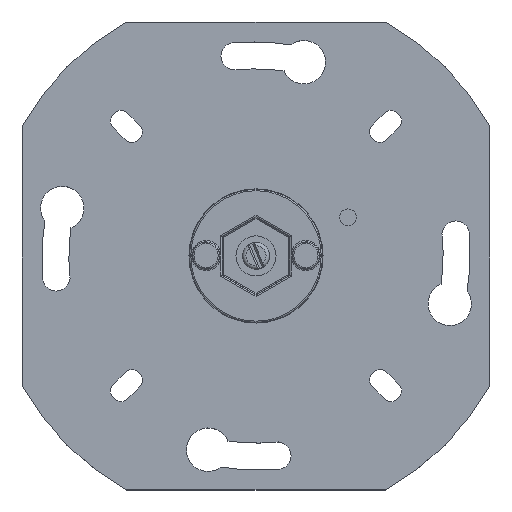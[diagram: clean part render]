
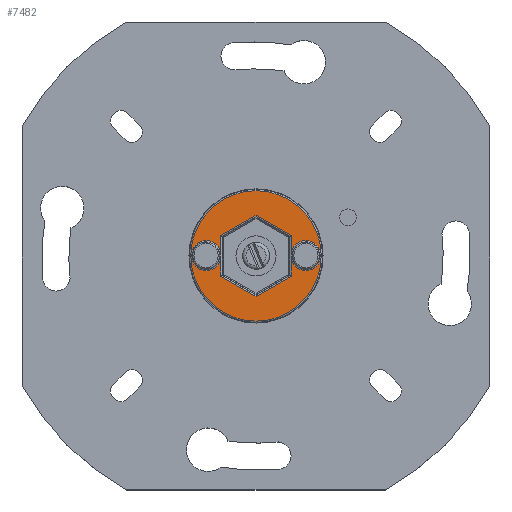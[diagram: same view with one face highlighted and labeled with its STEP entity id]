
A CAD part, top view. The second image highlights one B-rep face of the part: STEP entity #7482.
In plain terms, the highlighted planar face has unit normal (0, 0, 1).
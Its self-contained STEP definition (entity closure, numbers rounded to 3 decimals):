
#586=LINE('',#11053,#1108);
#587=LINE('',#11055,#1109);
#589=LINE('',#11069,#1111);
#590=LINE('',#11071,#1112);
#591=LINE('',#11073,#1113);
#592=LINE('',#11077,#1114);
#593=LINE('',#11079,#1115);
#594=LINE('',#11081,#1116);
#1108=VECTOR('',#9370,1000.);
#1109=VECTOR('',#9371,1000.);
#1111=VECTOR('',#9389,1000.);
#1112=VECTOR('',#9390,1000.);
#1113=VECTOR('',#9391,1000.);
#1114=VECTOR('',#9394,1000.);
#1115=VECTOR('',#9395,1000.);
#1116=VECTOR('',#9396,1000.);
#2598=ORIENTED_EDGE('',*,*,#3419,.T.);
#2599=ORIENTED_EDGE('',*,*,#3424,.T.);
#2600=ORIENTED_EDGE('',*,*,#3418,.T.);
#2601=ORIENTED_EDGE('',*,*,#3426,.T.);
#2602=ORIENTED_EDGE('',*,*,#3427,.T.);
#2603=ORIENTED_EDGE('',*,*,#3428,.T.);
#2604=ORIENTED_EDGE('',*,*,#3429,.T.);
#2605=ORIENTED_EDGE('',*,*,#3430,.T.);
#2606=ORIENTED_EDGE('',*,*,#3431,.T.);
#2607=ORIENTED_EDGE('',*,*,#3432,.T.);
#2608=ORIENTED_EDGE('',*,*,#3433,.F.);
#3418=EDGE_CURVE('',#3945,#3949,#586,.T.);
#3419=EDGE_CURVE('',#3950,#3948,#587,.T.);
#3424=EDGE_CURVE('',#3948,#3945,#4154,.T.);
#3426=EDGE_CURVE('',#3949,#3954,#589,.T.);
#3427=EDGE_CURVE('',#3954,#3955,#590,.T.);
#3428=EDGE_CURVE('',#3955,#3956,#591,.T.);
#3429=EDGE_CURVE('',#3956,#3957,#4156,.T.);
#3430=EDGE_CURVE('',#3957,#3958,#592,.T.);
#3431=EDGE_CURVE('',#3958,#3959,#593,.T.);
#3432=EDGE_CURVE('',#3959,#3950,#594,.T.);
#3433=EDGE_CURVE('',#3960,#3960,#4157,.T.);
#3945=VERTEX_POINT('',#11037);
#3948=VERTEX_POINT('',#11047);
#3949=VERTEX_POINT('',#11054);
#3950=VERTEX_POINT('',#11056);
#3954=VERTEX_POINT('',#11070);
#3955=VERTEX_POINT('',#11072);
#3956=VERTEX_POINT('',#11074);
#3957=VERTEX_POINT('',#11076);
#3958=VERTEX_POINT('',#11078);
#3959=VERTEX_POINT('',#11080);
#3960=VERTEX_POINT('',#11083);
#4154=CIRCLE('',#7965,2.246);
#4156=CIRCLE('',#7969,2.246);
#4157=CIRCLE('',#7970,9.761);
#4490=EDGE_LOOP('',(#2598,#2599,#2600,#2601,#2602,#2603,#2604,#2605,#2606,
#2607));
#4491=EDGE_LOOP('',(#2608));
#4862=FACE_BOUND('',#4490,.T.);
#4863=FACE_BOUND('',#4491,.T.);
#5084=PLANE('',#7968);
#7482=ADVANCED_FACE('',(#4862,#4863),#5084,.F.);
#7965=AXIS2_PLACEMENT_3D('',#11064,#9381,#9382);
#7968=AXIS2_PLACEMENT_3D('',#11068,#9387,#9388);
#7969=AXIS2_PLACEMENT_3D('',#11075,#9392,#9393);
#7970=AXIS2_PLACEMENT_3D('',#11082,#9397,#9398);
#9370=DIRECTION('',(0.,1.,0.));
#9371=DIRECTION('',(0.,1.,0.));
#9381=DIRECTION('',(0.,0.,-1.));
#9382=DIRECTION('',(-1.,0.,0.));
#9387=DIRECTION('',(0.,0.,-1.));
#9388=DIRECTION('',(-1.,0.,0.));
#9389=DIRECTION('',(0.866,0.5,0.));
#9390=DIRECTION('',(0.866,-0.5,0.));
#9391=DIRECTION('',(0.,-1.,0.));
#9392=DIRECTION('',(0.,0.,-1.));
#9393=DIRECTION('',(-1.,0.,0.));
#9394=DIRECTION('',(0.,-1.,0.));
#9395=DIRECTION('',(-0.866,-0.5,0.));
#9396=DIRECTION('',(-0.866,0.5,0.));
#9397=DIRECTION('',(0.,0.,-1.));
#9398=DIRECTION('',(-1.,0.,0.));
#11037=CARTESIAN_POINT('',(13.523,35.335,3.5));
#11047=CARTESIAN_POINT('',(13.523,34.777,3.5));
#11053=CARTESIAN_POINT('',(13.523,35.,3.5));
#11054=CARTESIAN_POINT('',(13.523,38.03,3.5));
#11055=CARTESIAN_POINT('',(13.523,35.,3.5));
#11056=CARTESIAN_POINT('',(13.523,31.97,3.5));
#11064=CARTESIAN_POINT('',(11.294,35.056,3.5));
#11068=CARTESIAN_POINT('',(18.771,35.,3.5));
#11069=CARTESIAN_POINT('',(16.147,39.546,3.5));
#11070=CARTESIAN_POINT('',(18.771,41.061,3.5));
#11071=CARTESIAN_POINT('',(21.396,39.546,3.5));
#11072=CARTESIAN_POINT('',(24.02,38.03,3.5));
#11073=CARTESIAN_POINT('',(24.02,35.,3.5));
#11074=CARTESIAN_POINT('',(24.02,35.335,3.5));
#11075=CARTESIAN_POINT('',(26.248,35.056,3.5));
#11076=CARTESIAN_POINT('',(24.02,34.777,3.5));
#11077=CARTESIAN_POINT('',(24.02,35.,3.5));
#11078=CARTESIAN_POINT('',(24.02,31.97,3.5));
#11079=CARTESIAN_POINT('',(21.396,30.454,3.5));
#11080=CARTESIAN_POINT('',(18.771,28.939,3.5));
#11081=CARTESIAN_POINT('',(16.147,30.454,3.5));
#11082=CARTESIAN_POINT('',(18.771,35.,3.5));
#11083=CARTESIAN_POINT('',(9.011,35.,3.5));
